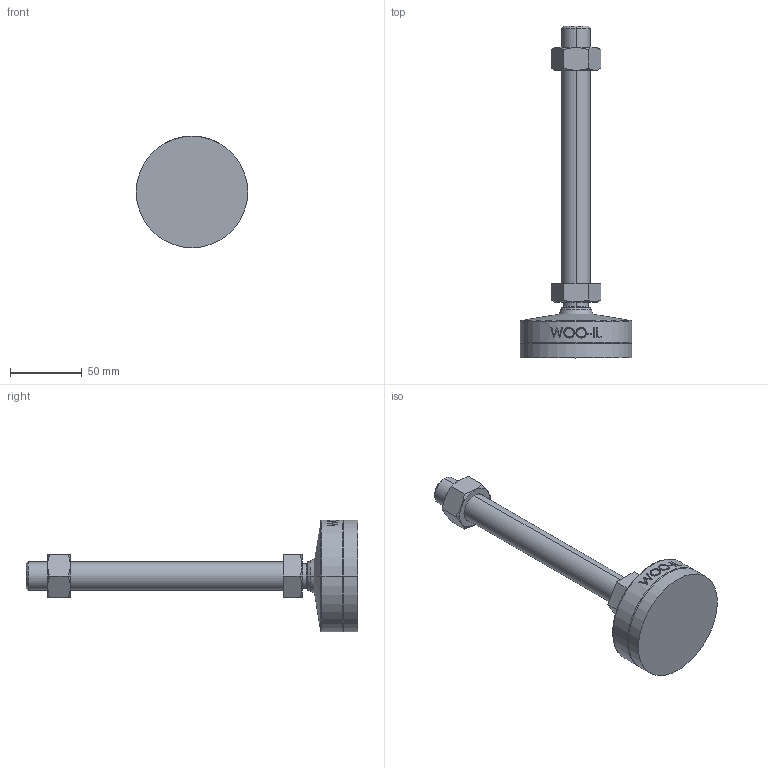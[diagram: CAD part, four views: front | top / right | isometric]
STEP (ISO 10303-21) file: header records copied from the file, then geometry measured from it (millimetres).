
FILE_DESCRIPTION (( 'STEP AP214' ), '1' );
FILE_NAME ('MFNR78-M20-180.step', '2021-02-22T09:08:46', ( '' ), ( '' ), 'SwSTEP 2.0', 'SolidWorks 2019', '' );
FILE_SCHEMA (( 'AUTOMOTIVE_DESIGN' ));
Length unit declared in the file: millimetre
Products named in the file (2): MFNR78-M20-180
Bounding box: 78 x 232 x 78 mm (x, y, z)
Volume: 210737.1 mm3; surface area: 33848.5 mm2
Topology: 2 solids, 2 shells, 105 faces, 245 edges, 156 vertices
Faces by surface type: plane 47, cone 18, cylinder 18, bspline 16, torus 4, sphere 2
Entity records: 4529 total; most frequent: CARTESIAN_POINT 2192, ORIENTED_EDGE 490, DIRECTION 437, EDGE_CURVE 245, AXIS2_PLACEMENT_3D 167, VERTEX_POINT 156, EDGE_LOOP 119, FACE_OUTER_BOUND 105
